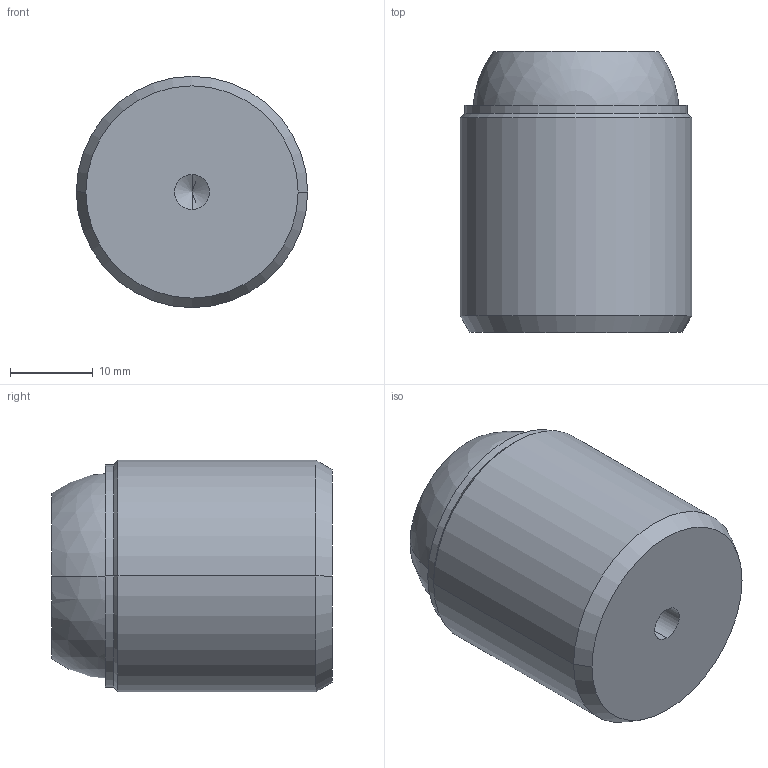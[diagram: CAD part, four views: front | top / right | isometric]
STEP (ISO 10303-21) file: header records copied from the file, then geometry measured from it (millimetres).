
FILE_DESCRIPTION (( 'STEP AP214' ), '1' );
FILE_NAME ('709.2-28-BR.step', '2023-01-26T12:37:50', ( '' ), ( '' ), 'SwSTEP 2.0', 'SolidWorks 2022', '' );
FILE_SCHEMA (( 'AUTOMOTIVE_DESIGN' ));
Length unit declared in the file: millimetre
Products named in the file (3): WB709.2_Kugel^WB709.2_25-B; 709.2-28-BR; WB709.2_Gehäuse^WB709.2_28-RH
Assembly tree (2 placements, depth 2):
  709.2-28-BR
    WB709.2_Gehäuse^WB709.2_28-RH
    WB709.2_Kugel^WB709.2_25-B
Bounding box: 28 x 34 x 28 mm (x, y, z)
Volume: 19073.1 mm3; surface area: 5981.4 mm2
Topology: 2 solids, 2 shells, 21 faces, 50 edges, 29 vertices
Faces by surface type: cylinder 6, cone 6, plane 5, sphere 4
Entity records: 654 total; most frequent: DIRECTION 116, CARTESIAN_POINT 87, ORIENTED_EDGE 76, AXIS2_PLACEMENT_3D 52, EDGE_CURVE 38, CIRCLE 26, VERTEX_POINT 23, EDGE_LOOP 23
